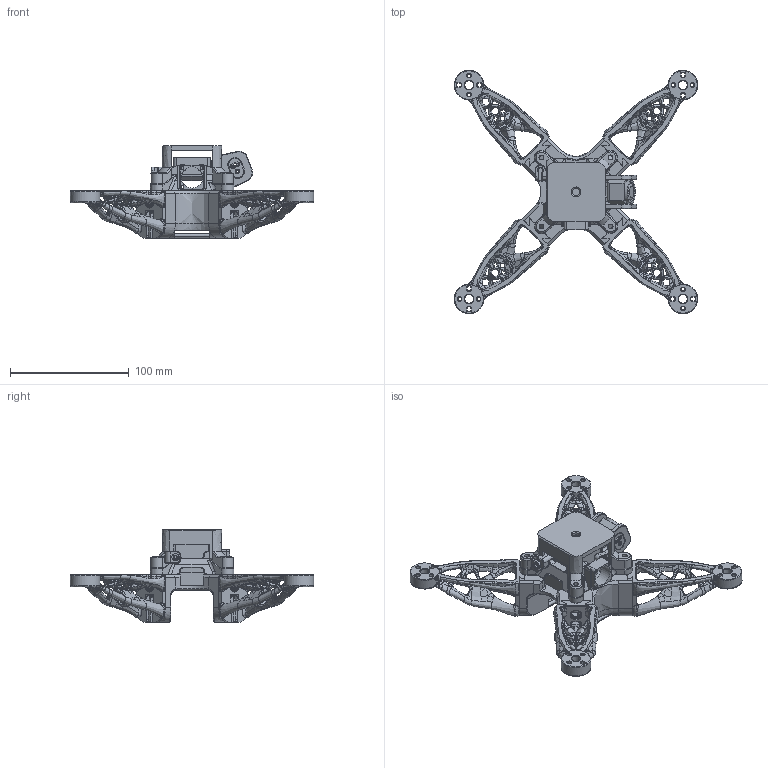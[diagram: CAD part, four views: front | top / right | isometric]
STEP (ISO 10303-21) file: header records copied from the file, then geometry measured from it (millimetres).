
FILE_DESCRIPTION(/* description */ ('STEP AP242','CAx-IF Rec.Pracs.---Representation and Presentation of Product Manufacturing Information (PMI)---4.0---2014-10-13','CAx-IF Rec.Pracs.---3D Tessellated Geometry---0.4---2014-09-14','2;1'),/* implementation_level */ '2;1');
FILE_NAME(/* name */ '65ea5f5a0d0b8418fca1da16',/* time_stamp */ '2024-03-08T00:44:15Z',/* author */ (''),/* organization */ (''),/* preprocessor_version */ 'ST-DEVELOPER v19.4',/* originating_system */ ' ',/* authorisation */ ' ');
FILE_SCHEMA (('AP242_MANAGED_MODEL_BASED_3D_ENGINEERING_MIM_LF { 1 0 10303 442 1 1 4 }'));
Products named in the file (14): Part 3; FusionComponent; Center_Frame_x1; Quad_Arm_x4; Part 4; Part 5; Part 6; Part 7; FPV_Hat_x1; Part 9; Part 10; Part 11
Bounding box: 205.2 x 205.2 x 78.3 mm (x, y, z)
Volume: 274274.7 mm3; surface area: 134642.5 mm2
Topology: 14 solids, 14 shells, 4032 faces, 10700 edges, 6476 vertices
Faces by surface type: bspline 2665, plane 809, cylinder 362, cone 183, torus 11, sphere 2
Full cylindrical faces by diameter (mm): 2 x11, 2.3 x2, 2.5 x6, 3 x15, 3.5 x1, 4 x13, 5 x5, 5.6 x4, 5.9 x4, 6 x5, 6.35 x1, 7.2 x4, 7.5 x4, 8 x4, 10 x4, 16.127 x1, 18 x1, 19.6 x1
Entity records: 359202 total; most frequent: CARTESIAN_POINT 283028, ORIENTED_EDGE 20854, EDGE_CURVE 10427, B_SPLINE_CURVE_WITH_KNOTS 7276, DIRECTION 6868, VERTEX_POINT 6425, EDGE_LOOP 4304, FACE_BOUND 4304
